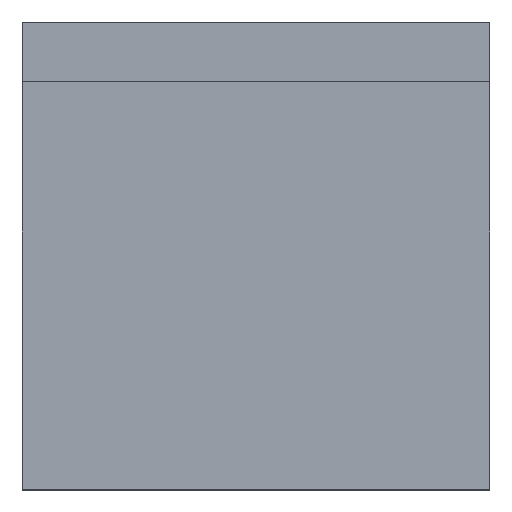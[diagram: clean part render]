
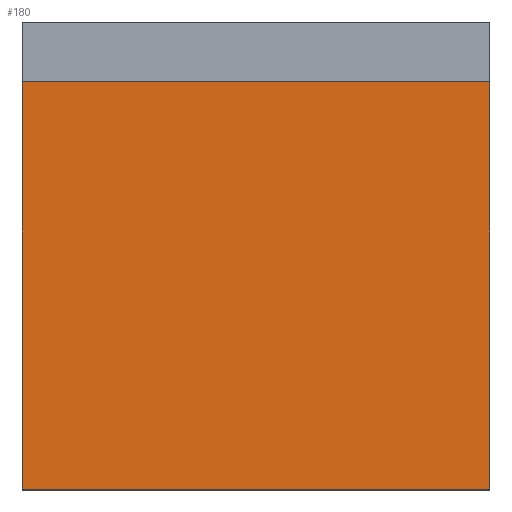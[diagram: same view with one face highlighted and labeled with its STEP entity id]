
A CAD part, top view. The second image highlights one B-rep face of the part: STEP entity #180.
In plain terms, the highlighted planar face has unit normal (0, 0, 1).
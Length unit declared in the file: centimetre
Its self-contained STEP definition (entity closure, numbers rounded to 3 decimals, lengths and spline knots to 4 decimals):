
#28 = LINE ( 'NONE', #824, #600 ) ;
#50 = VERTEX_POINT ( 'NONE', #773 ) ;
#68 = ORIENTED_EDGE ( 'NONE', *, *, #253, .T. ) ;
#89 = CARTESIAN_POINT ( 'NONE',  ( 0., 871.4687, 1000. ) ) ;
#180 = ADVANCED_FACE ( 'NONE', ( #1188 ), #619, .T. ) ;
#221 = EDGE_LOOP ( 'NONE', ( #643, #68, #668, #811 ) ) ;
#253 = EDGE_CURVE ( 'NONE', #564, #642, #28, .T. ) ;
#318 = VECTOR ( 'NONE', #1155, 100. ) ;
#390 = CARTESIAN_POINT ( 'NONE',  ( 1000., 0., 1000. ) ) ;
#452 = DIRECTION ( 'NONE',  ( 0., 1., 0. ) ) ;
#475 = VECTOR ( 'NONE', #651, 100. ) ;
#564 = VERTEX_POINT ( 'NONE', #1063 ) ;
#568 = LINE ( 'NONE', #1240, #1081 ) ;
#585 = EDGE_CURVE ( 'NONE', #642, #1249, #676, .T. ) ;
#600 = VECTOR ( 'NONE', #1220, 100. ) ;
#619 = PLANE ( 'NONE',  #699 ) ;
#642 = VERTEX_POINT ( 'NONE', #1244 ) ;
#643 = ORIENTED_EDGE ( 'NONE', *, *, #1119, .F. ) ;
#644 = LINE ( 'NONE', #89, #475 ) ;
#651 = DIRECTION ( 'NONE',  ( 1., 0., 0. ) ) ;
#668 = ORIENTED_EDGE ( 'NONE', *, *, #585, .T. ) ;
#676 = LINE ( 'NONE', #774, #318 ) ;
#699 = AXIS2_PLACEMENT_3D ( 'NONE', #1091, #1085, #803 ) ;
#773 = CARTESIAN_POINT ( 'NONE',  ( 1000., 871.4687, 1000. ) ) ;
#774 = CARTESIAN_POINT ( 'NONE',  ( 0., 0., 1000. ) ) ;
#803 = DIRECTION ( 'NONE',  ( 1., 0., 0. ) ) ;
#811 = ORIENTED_EDGE ( 'NONE', *, *, #1077, .T. ) ;
#824 = CARTESIAN_POINT ( 'NONE',  ( 0., 1000., 1000. ) ) ;
#1063 = CARTESIAN_POINT ( 'NONE',  ( 0., 871.4687, 1000. ) ) ;
#1077 = EDGE_CURVE ( 'NONE', #1249, #50, #568, .T. ) ;
#1081 = VECTOR ( 'NONE', #452, 100. ) ;
#1085 = DIRECTION ( 'NONE',  ( 0., 0., 1. ) ) ;
#1091 = CARTESIAN_POINT ( 'NONE',  ( 0., 0., 1000. ) ) ;
#1119 = EDGE_CURVE ( 'NONE', #564, #50, #644, .T. ) ;
#1155 = DIRECTION ( 'NONE',  ( 1., 0., 0. ) ) ;
#1188 = FACE_OUTER_BOUND ( 'NONE', #221, .T. ) ;
#1220 = DIRECTION ( 'NONE',  ( 0., -1., 0. ) ) ;
#1240 = CARTESIAN_POINT ( 'NONE',  ( 1000., 1000., 1000. ) ) ;
#1244 = CARTESIAN_POINT ( 'NONE',  ( 0., 0., 1000. ) ) ;
#1249 = VERTEX_POINT ( 'NONE', #390 ) ;
